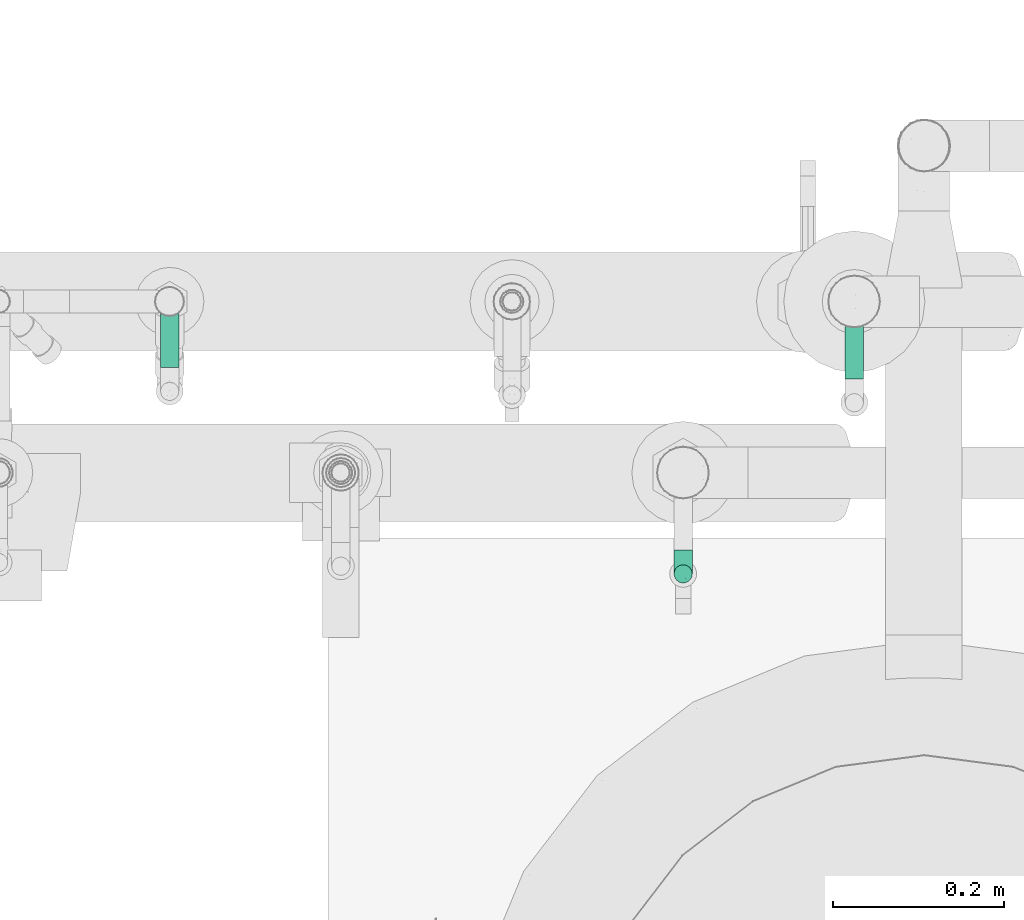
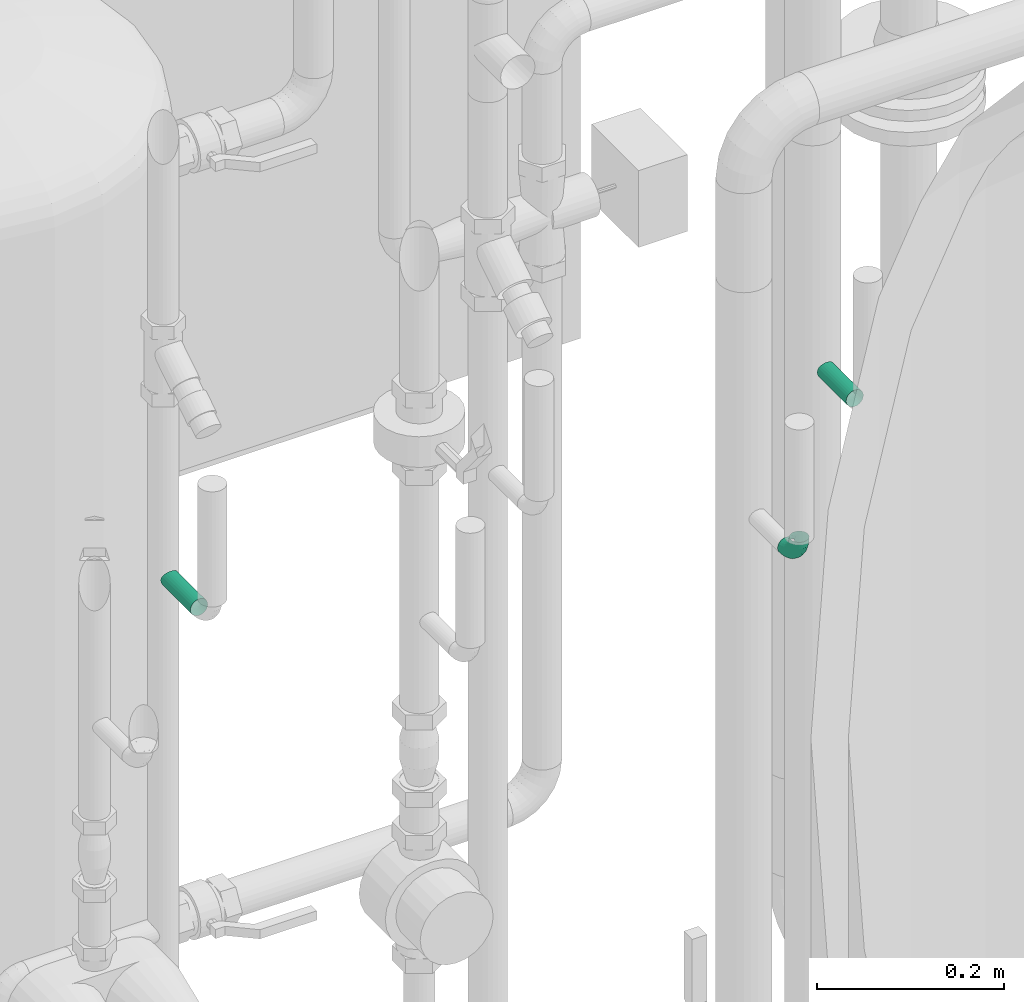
# One storey, part 194 of 374: 3 flow segments.
"""IFC2X3 building model written with IfcOpenShell, lengths in metres."""

from ifc_helpers import new_model, si_unit, direction, origin, place, context, subcontext, project, spatial, open_shell, surface_model, source, transform, mapped, element, save


model = new_model("IFC2X3")

# Units and contexts
model_context = context("Model", 3, precision=1e-05, world=origin(), true_north=direction((-0.4480736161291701, 0.8939966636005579)))
body_context = subcontext(model_context, "Body", "Model", "MODEL_VIEW")
ifc_project = project(units=[si_unit("LENGTHUNIT", "METRE"), si_unit("AREAUNIT", "SQUARE_METRE"), si_unit("VOLUMEUNIT", "CUBIC_METRE"), si_unit("PLANEANGLEUNIT", "RADIAN"), si_unit("THERMODYNAMICTEMPERATUREUNIT", "KELVIN"), si_unit("MASSUNIT", "GRAM", prefix="KILO"), si_unit("TIMEUNIT", "SECOND")], contexts=[model_context])

# Site, building, storey
site_placement = place(None, origin())
site = spatial("IfcSite", under=ifc_project, at=site_placement, Name="Site 1", CompositionType="ELEMENT")
building_placement = place(site_placement, origin())
building = spatial("IfcBuilding", under=site, at=building_placement, Name="Undefined", CompositionType="ELEMENT")
storey_placement = place(building_placement, origin())
storey = spatial("IfcBuildingStorey", under=building, at=storey_placement, Name="Rez de chauss\x8ee", CompositionType="ELEMENT", Elevation=0.0)

# Flow segments
shared_shape_1 = source(origin(), body_context, "Body", "SurfaceModel", [
    surface_model("IfcFaceBasedSurfaceModel", [(1.776356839e-15, 0.0027802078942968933, 0.0), (0.0, 0.0, 0.0), (0.06012626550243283, 7.105427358e-15, 0.0), (0.060000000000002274, 0.0027802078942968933, 0.0), (0.0, -0.002685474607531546, -0.0007195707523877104), (0.06047396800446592, -0.002685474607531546, -0.0007195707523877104), (1.776356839e-15, -0.00509320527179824, -0.002109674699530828), (0.0609556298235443, -0.0050932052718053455, -0.002109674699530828), (1.776356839e-15, -0.007059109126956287, -0.004075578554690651), (0.061445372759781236, -0.007059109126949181, -0.004075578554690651), (0.0, -0.00844921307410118, -0.00648330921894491), (0.06180925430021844, -0.00844921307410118, -0.00648330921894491), (0.0, -0.009168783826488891, -0.009168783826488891), (0.06194361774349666, -0.009168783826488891, -0.009168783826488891), (0.0, -0.009168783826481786, -0.011948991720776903), (0.06180925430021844, -0.009168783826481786, -0.011948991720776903), (1.776356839e-15, -0.00844921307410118, -0.014634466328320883), (0.061445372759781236, -0.008449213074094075, -0.01463446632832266), (1.776356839e-15, -0.007059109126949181, -0.017042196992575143), (0.0609556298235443, -0.007059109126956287, -0.017042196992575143), (0.0, -0.005093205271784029, -0.019008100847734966), (0.06047396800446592, -0.005093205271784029, -0.019008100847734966), (0.0, -0.0026854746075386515, -0.020398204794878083), (0.06012626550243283, -0.0026854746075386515, -0.020398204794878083), (1.776356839e-15, 7.105427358e-15, -0.021117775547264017), (0.060000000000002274, 7.105427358e-15, -0.021117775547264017), (1.776356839e-15, 0.002780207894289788, -0.02111777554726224), (0.060126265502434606, 0.0027802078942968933, -0.021117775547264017), (1.776356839e-15, 0.005465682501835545, -0.020398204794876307), (0.06047396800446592, 0.005465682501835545, -0.020398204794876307), (1.776356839e-15, 0.007873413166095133, -0.01900810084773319), (0.0609556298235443, 0.007873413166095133, -0.01900810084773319), (0.0, 0.00983931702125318, -0.017042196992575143), (0.06144537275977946, 0.00983931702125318, -0.017042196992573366), (1.776356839e-15, 0.011229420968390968, -0.01463446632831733), (0.06180925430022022, 0.011229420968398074, -0.014634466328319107), (1.776356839e-15, 0.011948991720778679, -0.011948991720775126), (0.061943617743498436, 0.011948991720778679, -0.01194899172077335), (1.776356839e-15, 0.011948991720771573, -0.009168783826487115), (0.06180925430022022, 0.011948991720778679, -0.009168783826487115), (0.0, 0.011229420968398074, -0.006483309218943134), (0.06144537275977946, 0.011229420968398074, -0.006483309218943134), (1.776356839e-15, 0.009839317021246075, -0.0040755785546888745), (0.0609556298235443, 0.009839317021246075, -0.004075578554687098), (1.776356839e-15, 0.007873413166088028, -0.0021096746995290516), (0.06047396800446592, 0.007873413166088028, -0.0021096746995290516), (1.776356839e-15, 0.005465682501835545, -0.000719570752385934), (0.060126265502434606, 0.00546568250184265, -0.000719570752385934)], [open_shell([[[0, 1, 2, 3]], [[1, 4, 5, 2]], [[4, 6, 7, 5]], [[6, 8, 9, 7]], [[8, 10, 11, 9]], [[10, 12, 13, 11]], [[12, 14, 15, 13]], [[14, 16, 17, 15]], [[16, 18, 19, 17]], [[18, 20, 21, 19]], [[20, 22, 23, 21]], [[22, 24, 25, 23]], [[24, 26, 27, 25]], [[26, 28, 29, 27]], [[28, 30, 31, 29]], [[30, 32, 33, 31]], [[32, 34, 35, 33]], [[34, 36, 37, 35]], [[36, 38, 39, 37]], [[38, 40, 41, 39]], [[40, 42, 43, 41]], [[42, 44, 45, 43]], [[44, 46, 47, 45]], [[46, 0, 3, 47]]])]),
])
flow_segment_1_placement = place(storey_placement, origin())
element("IfcFlowSegment", 1, at=flow_segment_1_placement, inside=storey, Name="Piquage sur circulaire 90°", ObjectType="Piquage sur circulaire 90°", context=body_context, shape_type="MappedRepresentation", body=[
    mapped(shared_shape_1, transform((54.260318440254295, 10.82788704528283, 1.475506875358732), x_axis=(0.0, 1.0, 0.0), y_axis=(-0.9914448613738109, 0.0, 0.1305261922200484), z_axis=(0.1305261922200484, 0.0, 0.9914448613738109))),
])
shared_shape_2 = source(origin(), body_context, "Body", "SurfaceModel", [
    surface_model("IfcFaceBasedSurfaceModel", [(1.776356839e-15, 0.0027802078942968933, 0.0), (0.0, 0.0, 0.0), (0.06022698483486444, -7.105427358e-15, 1.776356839e-15), (0.060000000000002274, 0.0027802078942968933, 0.0), (0.0, -0.002685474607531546, -0.0007195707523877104), (0.06086354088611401, -0.0026854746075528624, -0.0007195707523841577), (1.776356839e-15, -0.00509320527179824, -0.002109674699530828), (0.0617764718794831, -0.0050932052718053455, -0.0021096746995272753), (1.776356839e-15, -0.007059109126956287, -0.004075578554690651), (0.06274838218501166, -0.0070591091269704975, -0.004075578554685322), (0.0, -0.00844921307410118, -0.00648330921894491), (0.063504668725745, -0.00844921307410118, -0.006483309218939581), (0.0, -0.009168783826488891, -0.009168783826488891), (0.0637924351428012, -0.009168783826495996, -0.009168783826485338), (0.0, -0.009168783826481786, -0.011948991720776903), (0.063504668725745, -0.009168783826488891, -0.011948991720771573), (1.776356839e-15, -0.00844921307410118, -0.014634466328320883), (0.06274838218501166, -0.008449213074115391, -0.01463446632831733), (1.776356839e-15, -0.007059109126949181, -0.017042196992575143), (0.0617764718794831, -0.007059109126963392, -0.01704219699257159), (0.0, -0.005093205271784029, -0.019008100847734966), (0.06086354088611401, -0.005093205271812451, -0.019008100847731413), (0.0, -0.0026854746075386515, -0.020398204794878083), (0.06022698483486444, -0.0026854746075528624, -0.02039820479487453), (1.776356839e-15, 7.105427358e-15, -0.021117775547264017), (0.060000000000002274, 7.105427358e-15, -0.021117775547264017), (1.776356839e-15, 0.002780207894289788, -0.02111777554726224), (0.06022698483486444, 0.002780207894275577, -0.021117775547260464), (1.776356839e-15, 0.005465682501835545, -0.020398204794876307), (0.06086354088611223, 0.005465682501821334, -0.020398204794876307), (1.776356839e-15, 0.007873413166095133, -0.01900810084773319), (0.0617764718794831, 0.007873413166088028, -0.01900810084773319), (0.0, 0.00983931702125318, -0.017042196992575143), (0.06274838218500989, 0.009839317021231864, -0.017042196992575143), (1.776356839e-15, 0.011229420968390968, -0.01463446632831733), (0.06350466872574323, 0.011229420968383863, -0.014634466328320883), (1.776356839e-15, 0.011948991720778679, -0.011948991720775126), (0.06379243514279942, 0.011948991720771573, -0.011948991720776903), (1.776356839e-15, 0.011948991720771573, -0.009168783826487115), (0.06350466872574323, 0.011948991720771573, -0.009168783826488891), (0.0, 0.011229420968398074, -0.006483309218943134), (0.06274838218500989, 0.011229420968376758, -0.006483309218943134), (1.776356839e-15, 0.009839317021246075, -0.0040755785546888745), (0.0617764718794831, 0.009839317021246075, -0.0040755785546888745), (1.776356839e-15, 0.007873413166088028, -0.0021096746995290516), (0.06086354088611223, 0.007873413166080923, -0.002109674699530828), (1.776356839e-15, 0.005465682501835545, -0.000719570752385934), (0.06022698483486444, 0.005465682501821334, -0.0007195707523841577)], [open_shell([[[0, 1, 2, 3]], [[1, 4, 5, 2]], [[4, 6, 7, 5]], [[6, 8, 9, 7]], [[8, 10, 11, 9]], [[10, 12, 13, 11]], [[12, 14, 15, 13]], [[14, 16, 17, 15]], [[16, 18, 19, 17]], [[18, 20, 21, 19]], [[20, 22, 23, 21]], [[22, 24, 25, 23]], [[24, 26, 27, 25]], [[26, 28, 29, 27]], [[28, 30, 31, 29]], [[30, 32, 33, 31]], [[32, 34, 35, 33]], [[34, 36, 37, 35]], [[36, 38, 39, 37]], [[38, 40, 41, 39]], [[40, 42, 43, 41]], [[42, 44, 45, 43]], [[44, 46, 47, 45]], [[46, 0, 3, 47]]])]),
])
flow_segment_2_placement = place(storey_placement, origin())
element("IfcFlowSegment", 2, at=flow_segment_2_placement, inside=storey, Name="Piquage sur circulaire 90°", ObjectType="Piquage sur circulaire 90°", context=body_context, shape_type="MappedRepresentation", body=[
    mapped(shared_shape_2, transform((53.46031844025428, 10.841187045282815, 1.475506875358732), x_axis=(0.0, 1.0, 0.0), y_axis=(-0.9914448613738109, 0.0, 0.1305261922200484), z_axis=(0.1305261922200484, 0.0, 0.9914448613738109))),
])
shared_shape_3 = source(origin(), body_context, "Body", "SurfaceModel", [
    surface_model("IfcFaceBasedSurfaceModel", [(0.010089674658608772, 0.0, 1.33226763e-15), (0.010042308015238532, 0.002779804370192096, 1.33226763e-15), (4.73666433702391e-05, 0.0027798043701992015, 4.4408921e-16), (0.0, 0.0, 0.0), (-0.009607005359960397, 0.00311462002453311, -0.0025651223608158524), (-0.00974587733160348, 0.0003379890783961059, -0.0025894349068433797), (-0.01826287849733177, 0.003761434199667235, -0.007520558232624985), (-0.018483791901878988, 0.000990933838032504, -0.007591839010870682), (-0.025330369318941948, 0.004676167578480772, -0.014528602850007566), (-0.025618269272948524, 0.001914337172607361, -0.014666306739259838), (-0.030327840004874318, 0.005796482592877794, -0.023111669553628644), (-0.030663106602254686, 0.003045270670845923, -0.023330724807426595), (-0.03291472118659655, 0.00704603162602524, -0.03268483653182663), (-0.03327450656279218, 0.004306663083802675, -0.0329946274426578), (0.009903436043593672, 0.005463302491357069, -0.000713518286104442), (0.000186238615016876, 0.005463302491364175, -0.0007135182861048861), (-0.009199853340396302, 0.005788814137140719, -0.0032073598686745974), (-0.017615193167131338, 0.006417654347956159, -0.008025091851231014), (-0.02448628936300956, 0.007306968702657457, -0.014838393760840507), (-0.029344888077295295, 0.008396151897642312, -0.023182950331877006), (-0.031859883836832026, 0.009610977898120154, -0.0324900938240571), (0.009682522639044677, 0.007867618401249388, -0.002091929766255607), (0.0004071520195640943, 0.007867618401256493, -0.002091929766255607), (-0.008552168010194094, 0.008178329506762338, -0.004472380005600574), (-0.0165848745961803, 0.008778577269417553, -0.00907105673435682), (-0.023143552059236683, 0.00962745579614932, -0.015574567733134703), (-0.027781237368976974, 0.010667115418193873, -0.023539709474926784), (-0.030181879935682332, 0.011826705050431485, -0.03242367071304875), (0.009394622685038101, 0.009828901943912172, -0.0040412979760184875), (0.000695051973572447, 0.009828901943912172, -0.0040412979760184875), (-0.007708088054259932, 0.010120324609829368, -0.006273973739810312), (-0.015242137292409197, 0.010683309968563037, -0.010587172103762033), (-0.02139366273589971, 0.011479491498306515, -0.01668695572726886), (-0.0257434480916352, 0.012454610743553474, -0.02415763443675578), (-0.027995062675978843, 0.013542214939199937, -0.03249009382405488), (0.00905935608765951, 0.011213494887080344, -0.006428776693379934), (0.0010303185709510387, 0.01121349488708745, -0.006428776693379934), (-0.006725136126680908, 0.011482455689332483, -0.00848936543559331), (-0.0136784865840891, 0.01200204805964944, -0.01247011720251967), (-0.01935587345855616, 0.012736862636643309, -0.018099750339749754), (-0.02337039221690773, 0.013636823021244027, -0.024994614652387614), (-0.02544846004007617, 0.014640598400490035, -0.03268483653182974), (0.008699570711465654, 0.01192703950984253, -0.009091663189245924), (0.001390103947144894, 0.01192703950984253, -0.009091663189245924), (-0.005670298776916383, 0.01217189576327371, -0.010967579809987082), (-0.01200048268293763, 0.012644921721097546, -0.014591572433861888), (-0.017169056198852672, 0.013313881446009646, -0.01971667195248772), (-0.02082378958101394, 0.014133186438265, -0.025993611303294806), (-0.02271561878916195, 0.01504700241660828, -0.032994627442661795), (0.008339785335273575, 0.011920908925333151, -0.011848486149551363), (0.0017498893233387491, 0.011920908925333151, -0.011848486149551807), (-0.0046154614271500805, 0.012141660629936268, -0.013539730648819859), (-0.01032247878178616, 0.012568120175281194, -0.016806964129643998), (-0.014982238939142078, 0.013171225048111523, -0.02142753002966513), (-0.018277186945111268, 0.01390987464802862, -0.027086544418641), (-0.01998277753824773, 0.01473373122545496, -0.033398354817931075), (0.008004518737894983, 0.011195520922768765, -0.01451137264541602), (0.0020851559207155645, 0.011195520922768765, -0.014511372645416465), (-0.003632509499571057, 0.011393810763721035, -0.016030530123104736), (-0.008758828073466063, 0.011776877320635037, -0.018965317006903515), (-0.01294444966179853, 0.012318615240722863, -0.023115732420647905), (-0.01590413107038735, 0.012982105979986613, -0.028198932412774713), (-0.017436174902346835, 0.013722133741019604, -0.03386850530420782), (0.007716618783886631, 0.009800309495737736, -0.016898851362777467), (0.002373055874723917, 0.009800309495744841, -0.016898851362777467), (-0.0027884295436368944, 0.009979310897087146, -0.018270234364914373), (-0.007416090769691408, 0.010325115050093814, -0.020919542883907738), (-0.01119456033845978, 0.010814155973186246, -0.024666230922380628), (-0.013866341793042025, 0.011413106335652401, -0.02925496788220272), (-0.015249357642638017, 0.012081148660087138, -0.03437303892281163), (0.007495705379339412, 0.007830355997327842, -0.018848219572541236), (0.002593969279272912, 0.007830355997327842, -0.018848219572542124), (-0.00214074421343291, 0.00799455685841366, -0.02010621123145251), (-0.006385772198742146, 0.008311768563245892, -0.022536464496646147), (-0.009851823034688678, 0.008760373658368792, -0.025973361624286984), (-0.012302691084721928, 0.00930980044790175, -0.03018268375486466), (-0.013571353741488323, 0.009922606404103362, -0.034877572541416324), (0.007356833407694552, 0.0054199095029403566, -0.020226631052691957), (0.002732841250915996, 0.005419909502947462, -0.0202266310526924), (-0.0017335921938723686, 0.005574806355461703, -0.021413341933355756), (-0.005738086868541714, 0.005874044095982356, -0.023705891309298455), (-0.009007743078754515, 0.006297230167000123, -0.026948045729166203), (-0.011319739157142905, 0.006815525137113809, -0.030918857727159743), (-0.012516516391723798, 0.007393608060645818, -0.03534772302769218), (0.007309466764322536, 0.0027332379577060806, -0.020940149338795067), (0.0027802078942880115, 0.002733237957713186, -0.020940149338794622), (-0.001594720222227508, 0.0028849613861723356, -0.022102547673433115), (-0.0055171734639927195, 0.0031780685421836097, -0.024348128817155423), (-0.008719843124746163, 0.003592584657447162, -0.027523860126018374), (-0.010984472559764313, 0.004100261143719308, -0.03141332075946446), (-0.012156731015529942, 0.004666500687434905, -0.035751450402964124), (0.0073568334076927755, -4.6566412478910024e-05, -0.020940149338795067), (0.002732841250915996, -4.6566412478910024e-05, -0.02094014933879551), (-0.0017335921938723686, 0.00010833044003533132, -0.022126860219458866), (-0.005738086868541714, 0.00040756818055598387, -0.024419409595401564), (-0.009007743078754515, 0.0008307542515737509, -0.027661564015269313), (-0.011319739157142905, 0.0013490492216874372, -0.03163237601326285), (-0.012516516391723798, 0.0019271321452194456, -0.03606124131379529), (0.007495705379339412, -0.002730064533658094, -0.020226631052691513), (0.002593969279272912, -0.002730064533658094, -0.0202266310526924), (-0.00214074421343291, -0.002565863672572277, -0.021484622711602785), (-0.006385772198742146, -0.002248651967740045, -0.023914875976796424), (-0.009851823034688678, -0.0018000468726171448, -0.02735177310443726), (-0.012302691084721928, -0.0012506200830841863, -0.031561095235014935), (-0.013571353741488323, -0.0006378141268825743, -0.0362559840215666), (0.007716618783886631, -0.005134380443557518, -0.01884821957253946), (0.002373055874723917, -0.0051343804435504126, -0.01884821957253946), (-0.0027884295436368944, -0.004955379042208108, -0.020219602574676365), (-0.007416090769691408, -0.00460957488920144, -0.02286891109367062), (-0.01119456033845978, -0.004120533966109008, -0.026615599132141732), (-0.013866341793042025, -0.0035215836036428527, -0.031204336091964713), (-0.015249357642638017, -0.002853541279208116, -0.03632240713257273), (0.008004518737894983, -0.007095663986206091, -0.01689885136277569), (0.0020851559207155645, -0.007095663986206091, -0.016898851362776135), (-0.003632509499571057, -0.006897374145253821, -0.018418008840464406), (-0.008758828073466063, -0.006514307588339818, -0.021352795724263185), (-0.01294444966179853, -0.005972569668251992, -0.025503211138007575), (-0.01590413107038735, -0.005309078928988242, -0.030586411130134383), (-0.017436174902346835, -0.0045690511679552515, -0.03625598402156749), (0.008339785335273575, -0.008480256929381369, -0.014511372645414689), (0.0017498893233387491, -0.008480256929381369, -0.014511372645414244), (-0.0046154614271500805, -0.008259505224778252, -0.016202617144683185), (-0.01032247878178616, -0.007833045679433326, -0.019469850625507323), (-0.014982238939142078, -0.007229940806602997, -0.024090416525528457), (-0.018277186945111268, -0.006491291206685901, -0.029749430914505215), (-0.01998277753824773, -0.00566743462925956, -0.0360612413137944), (0.008699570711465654, -0.009193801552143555, -0.011848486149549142), (0.001390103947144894, -0.009193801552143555, -0.011848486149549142), (-0.005670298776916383, -0.008948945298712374, -0.013724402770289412), (-0.01200048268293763, -0.008475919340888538, -0.017348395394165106), (-0.017169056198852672, -0.007806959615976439, -0.022473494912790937), (-0.02082378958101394, -0.006987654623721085, -0.028750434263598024), (-0.02271561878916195, -0.006073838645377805, -0.035751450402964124), (0.00905935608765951, -0.009187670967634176, -0.00909166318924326), (0.0010303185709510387, -0.00918767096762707, -0.00909166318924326), (-0.006725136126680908, -0.008918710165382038, -0.011152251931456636), (-0.0136784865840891, -0.00839911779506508, -0.015133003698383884), (-0.01935587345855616, -0.007664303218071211, -0.02076263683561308), (-0.02337039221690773, -0.006764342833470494, -0.02765750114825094), (-0.02544846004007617, -0.005760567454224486, -0.03534772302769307), (0.009394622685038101, -0.008462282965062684, -0.006428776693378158), (0.000695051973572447, -0.008462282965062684, -0.006428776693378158), (-0.007708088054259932, -0.008170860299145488, -0.008661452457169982), (-0.015242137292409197, -0.0076078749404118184, -0.012974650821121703), (-0.02139366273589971, -0.00681169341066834, -0.01907443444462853), (-0.0257434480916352, -0.005836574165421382, -0.02654511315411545), (-0.027995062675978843, -0.004748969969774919, -0.03487757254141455), (0.009682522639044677, -0.007067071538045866, -0.004041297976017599), (0.0004071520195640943, -0.0070670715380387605, -0.004041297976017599), (-0.008552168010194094, -0.006756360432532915, -0.006421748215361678), (-0.0165848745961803, -0.0061561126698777, -0.011020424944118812), (-0.023143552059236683, -0.0053072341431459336, -0.017523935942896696), (-0.027781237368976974, -0.0042675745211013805, -0.02548907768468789), (-0.030181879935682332, -0.0031079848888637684, -0.03437303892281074), (0.009903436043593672, -0.005097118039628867, -0.0020919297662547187), (0.000186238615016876, -0.005097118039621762, -0.002091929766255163), (-0.009199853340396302, -0.004771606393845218, -0.004585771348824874), (-0.017615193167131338, -0.004142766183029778, -0.009403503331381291), (-0.02448628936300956, -0.0032534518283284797, -0.016216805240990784), (-0.029344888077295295, -0.0021642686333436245, -0.024561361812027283), (-0.031859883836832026, -0.0009494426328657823, -0.033868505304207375), (0.010042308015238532, -0.002686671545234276, -0.0007135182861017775), (4.73666433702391e-05, -0.0026866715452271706, -0.0007135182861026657), (-0.009607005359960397, -0.002351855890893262, -0.003278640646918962), (-0.01826287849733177, -0.0017050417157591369, -0.008234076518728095), (-0.025330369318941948, -0.0007903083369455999, -0.015242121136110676), (-0.030327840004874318, 0.0003300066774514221, -0.023825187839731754), (-0.03291472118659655, 0.0015795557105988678, -0.03339835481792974)], [open_shell([[[0, 1, 2, 3]], [[3, 2, 4, 5]], [[5, 4, 6, 7]], [[7, 6, 8, 9]], [[9, 8, 10, 11]], [[11, 10, 12, 13]], [[1, 14, 15, 2]], [[2, 15, 16, 4]], [[4, 16, 17, 6]], [[6, 17, 18, 8]], [[8, 18, 19, 10]], [[10, 19, 20, 12]], [[14, 21, 22, 15]], [[15, 22, 23, 16]], [[16, 23, 24, 17]], [[17, 24, 25, 18]], [[18, 25, 26, 19]], [[19, 26, 27, 20]], [[21, 28, 29, 22]], [[22, 29, 30, 23]], [[23, 30, 31, 24]], [[24, 31, 32, 25]], [[25, 32, 33, 26]], [[26, 33, 34, 27]], [[28, 35, 36, 29]], [[29, 36, 37, 30]], [[30, 37, 38, 31]], [[31, 38, 39, 32]], [[32, 39, 40, 33]], [[33, 40, 41, 34]], [[35, 42, 43, 36]], [[36, 43, 44, 37]], [[37, 44, 45, 38]], [[38, 45, 46, 39]], [[39, 46, 47, 40]], [[40, 47, 48, 41]], [[42, 49, 50, 43]], [[43, 50, 51, 44]], [[44, 51, 52, 45]], [[45, 52, 53, 46]], [[46, 53, 54, 47]], [[47, 54, 55, 48]], [[49, 56, 57, 50]], [[50, 57, 58, 51]], [[51, 58, 59, 52]], [[52, 59, 60, 53]], [[53, 60, 61, 54]], [[54, 61, 62, 55]], [[56, 63, 64, 57]], [[57, 64, 65, 58]], [[58, 65, 66, 59]], [[59, 66, 67, 60]], [[60, 67, 68, 61]], [[61, 68, 69, 62]], [[63, 70, 71, 64]], [[64, 71, 72, 65]], [[65, 72, 73, 66]], [[66, 73, 74, 67]], [[67, 74, 75, 68]], [[68, 75, 76, 69]], [[70, 77, 78, 71]], [[71, 78, 79, 72]], [[72, 79, 80, 73]], [[73, 80, 81, 74]], [[74, 81, 82, 75]], [[75, 82, 83, 76]], [[77, 84, 85, 78]], [[78, 85, 86, 79]], [[79, 86, 87, 80]], [[80, 87, 88, 81]], [[81, 88, 89, 82]], [[82, 89, 90, 83]], [[84, 91, 92, 85]], [[85, 92, 93, 86]], [[86, 93, 94, 87]], [[87, 94, 95, 88]], [[88, 95, 96, 89]], [[89, 96, 97, 90]], [[91, 98, 99, 92]], [[92, 99, 100, 93]], [[93, 100, 101, 94]], [[94, 101, 102, 95]], [[95, 102, 103, 96]], [[96, 103, 104, 97]], [[98, 105, 106, 99]], [[99, 106, 107, 100]], [[100, 107, 108, 101]], [[101, 108, 109, 102]], [[102, 109, 110, 103]], [[103, 110, 111, 104]], [[105, 112, 113, 106]], [[106, 113, 114, 107]], [[107, 114, 115, 108]], [[108, 115, 116, 109]], [[109, 116, 117, 110]], [[110, 117, 118, 111]], [[112, 119, 120, 113]], [[113, 120, 121, 114]], [[114, 121, 122, 115]], [[115, 122, 123, 116]], [[116, 123, 124, 117]], [[117, 124, 125, 118]], [[119, 126, 127, 120]], [[120, 127, 128, 121]], [[121, 128, 129, 122]], [[122, 129, 130, 123]], [[123, 130, 131, 124]], [[124, 131, 132, 125]], [[126, 133, 134, 127]], [[127, 134, 135, 128]], [[128, 135, 136, 129]], [[129, 136, 137, 130]], [[130, 137, 138, 131]], [[131, 138, 139, 132]], [[133, 140, 141, 134]], [[134, 141, 142, 135]], [[135, 142, 143, 136]], [[136, 143, 144, 137]], [[137, 144, 145, 138]], [[138, 145, 146, 139]], [[140, 147, 148, 141]], [[141, 148, 149, 142]], [[142, 149, 150, 143]], [[143, 150, 151, 144]], [[144, 151, 152, 145]], [[145, 152, 153, 146]], [[147, 154, 155, 148]], [[148, 155, 156, 149]], [[149, 156, 157, 150]], [[150, 157, 158, 151]], [[151, 158, 159, 152]], [[152, 159, 160, 153]], [[154, 161, 162, 155]], [[155, 162, 163, 156]], [[156, 163, 164, 157]], [[157, 164, 165, 158]], [[158, 165, 166, 159]], [[159, 166, 167, 160]], [[161, 0, 3, 162]], [[162, 3, 5, 163]], [[163, 5, 7, 164]], [[164, 7, 9, 165]], [[165, 9, 11, 166]], [[166, 11, 13, 167]]])]),
])
flow_segment_3_placement = place(storey_placement, origin())
element("IfcFlowSegment", 3, at=flow_segment_3_placement, inside=storey, Name="Tube coudé", ObjectType="Tube coudé", context=body_context, shape_type="MappedRepresentation", body=[
    mapped(shared_shape_3, transform((54.05756201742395, 10.617883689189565, 1.455886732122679), x_axis=(0.0, 0.9914448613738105, -0.13052619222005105), y_axis=(0.9915887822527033, 0.016893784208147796, 0.12832103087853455), z_axis=(0.1294283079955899, -0.12942830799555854, -0.9831056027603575))),
])

save(model, "model.ifc")
